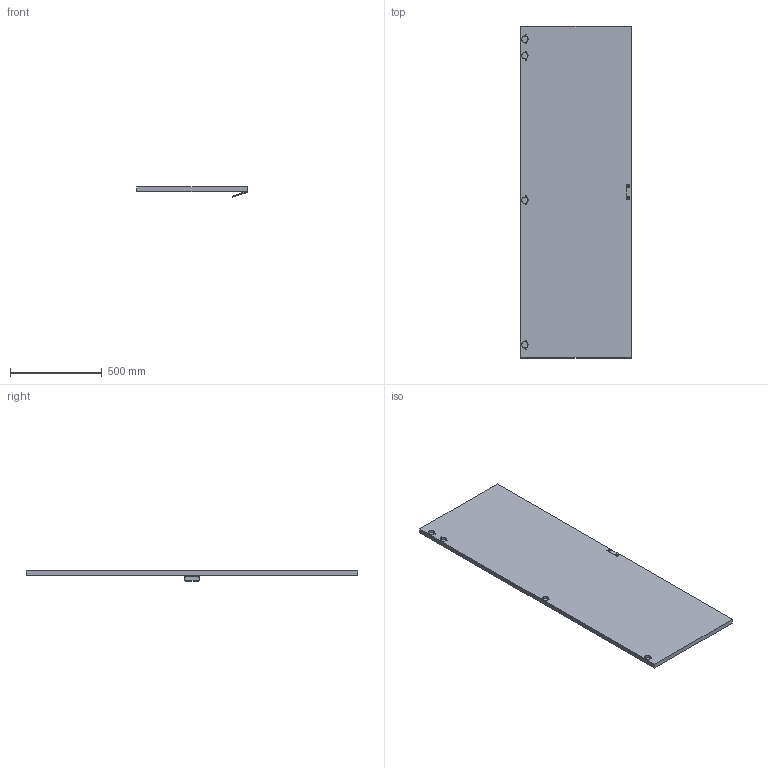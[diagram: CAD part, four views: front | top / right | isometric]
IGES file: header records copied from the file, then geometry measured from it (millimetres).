
Global section: file name: 80021; native system: Autodesk Inventor 2014; preprocessor: unknown; author: Robertom; date: 20140526.112339; units: millimetre
Bounding box: 602 x 1813 x 55.13 mm (x, y, z)
Volume: 27277655.8 mm3; surface area: 2333286.1 mm2
Topology: 2 solids, 2 shells, 72 faces, 186 edges, 130 vertices
Faces by surface type: bspline 72
